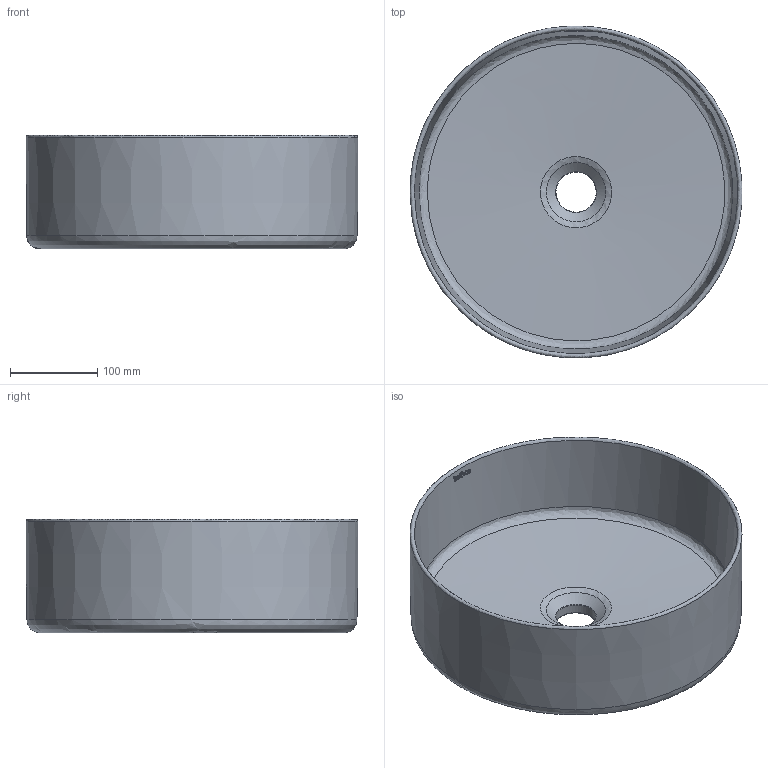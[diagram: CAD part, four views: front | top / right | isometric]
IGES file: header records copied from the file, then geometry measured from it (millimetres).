
Global section: file name: C:\Users\User\Desktop\4142 4150 4151 New Dinan Round\4142 4150 4151 New Dinan Round.igs; native system: Rhinoceros ( Feb 26 2015 ); preprocessor: Trout Lake IGES 012 Feb 26 2015; date: 200918.125021; units: millimetre
Bounding box: 379.83 x 379.71 x 130 mm (x, y, z)
Surface area: 493648.5 mm2 (no closed solid volume)
Topology: 0 solids, 0 shells, 78 faces, 772 edges, 746 vertices
Faces by surface type: bspline 78
